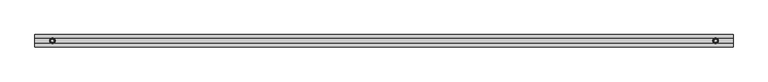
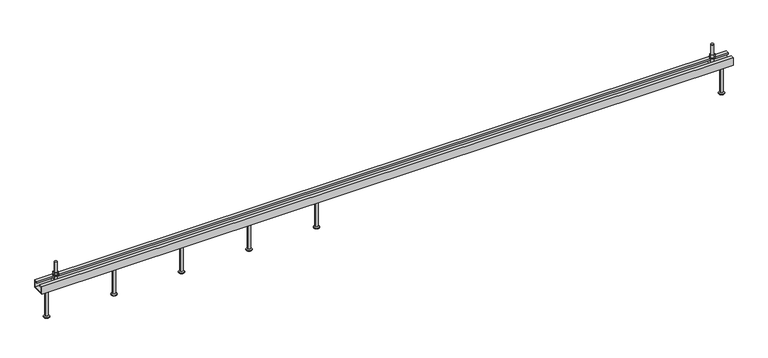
"""IFC4 building model written with IfcOpenShell, lengths in millimetres: fastener geometry, JTA-W JORDAHL® AnchorChannels : JTA-W L=3000 mm."""

from ifc_helpers import new_model, si_unit, point, frame, frame_2d, origin, place, context, project, spatial, polyline, circle_curve, trimmed, segment, composite_curve, outline, extrude, source, transform, mapped, element, save
from ifc_brep_helpers import plane_surface, cylinder_surface, revolved_surface, advanced_brep


def fastener_efa6f67a(model_context):
    return source(origin(), model_context, "Body", "SolidModel", [
        advanced_brep(
        [(1207.0, 0.0, -34.0), (1189.5, 0.0, -34.0), (1224.5, 0.0, -34.0), (1195.2, 0.0, -165.0), (1207.0, 0.0, -165.0), (1218.8, 0.0, -165.0), (1195.2, 0.0, -163.0), (1218.8, 0.0, -163.0), (1201.2, 0.0, -159.5358984), (1212.8, 0.0, -159.5358984), (1201.2, 0.0, -37.0), (1212.8, 0.0, -37.0)],
        [
            (0, 1),
            (1, 2, circle_curve(frame((1207.0, 0.0, -34.0), z_axis=(0.0, 0.0, 1.0), x_axis=(1.0, 0.0, 0.0)), 17.5)),
            (2, 0),
            (2, 1, circle_curve(frame((1207.0, 0.0, -34.0), z_axis=(0.0, 0.0, 1.0), x_axis=(1.0, 0.0, 0.0)), 17.5)),
            (3, 4),
            (4, 5),
            (5, 3, circle_curve(frame((1207.0, 0.0, -165.0), z_axis=(0.0, 0.0, -1.0), x_axis=(1.0, 0.0, 0.0)), 11.8)),
            (3, 5, circle_curve(frame((1207.0, 0.0, -165.0), z_axis=(0.0, 0.0, -1.0), x_axis=(1.0, 0.0, 0.0)), 11.8)),
            (6, 3),
            (5, 7),
            (7, 6, circle_curve(frame((1207.0, 0.0, -163.0), z_axis=(0.0, 0.0, -1.0), x_axis=(1.0, 0.0, 0.0)), 11.8)),
            (6, 7, circle_curve(frame((1207.0, 0.0, -163.0), z_axis=(0.0, 0.0, -1.0), x_axis=(1.0, 0.0, 0.0)), 11.8)),
            (8, 6),
            (7, 9),
            (9, 8, circle_curve(frame((1207.0, 0.0, -159.5358984), z_axis=(0.0, 0.0, -1.0), x_axis=(1.0, 0.0, 0.0)), 5.8)),
            (8, 9, circle_curve(frame((1207.0, 0.0, -159.5358984), z_axis=(0.0, 0.0, -1.0), x_axis=(1.0, 0.0, 0.0)), 5.8)),
            (10, 8),
            (9, 11),
            (11, 10, circle_curve(frame((1207.0, 0.0, -37.0), z_axis=(0.0, 0.0, -1.0), x_axis=(1.0, 0.0, 0.0)), 5.8)),
            (10, 11, circle_curve(frame((1207.0, 0.0, -37.0), z_axis=(0.0, 0.0, -1.0), x_axis=(1.0, 0.0, 0.0)), 5.8)),
            (1, 10),
            (11, 2),
        ],
        [
            plane_surface(frame((1207.0, 0.0, -34.0), z_axis=(0.0, 0.0, 1.0), x_axis=(1.0, 0.0, 0.0))),
            plane_surface(frame((1207.0, 0.0, -165.0), z_axis=(0.0, 0.0, -1.0), x_axis=(1.0, 0.0, 0.0))),
            cylinder_surface(frame((1207.0, 0.0, 2345.3150031), z_axis=(0.0, 0.0, 1.0), x_axis=(1.0, 0.0, 0.0)), 11.8),
            revolved_surface(polyline([(1218.8, 0.0, -163.0), (1212.8, 0.0, -159.5358984)]), (1207.0, 0.0, 2345.3150031), (0.0, 0.0, 1.0)),
            cylinder_surface(frame((1207.0, 0.0, 2345.3150031), z_axis=(0.0, 0.0, 1.0), x_axis=(1.0, 0.0, 0.0)), 5.8),
            revolved_surface(polyline([(1212.8, 0.0, -37.0), (1224.5, 0.0, -34.0)]), (1207.0, 0.0, 2345.3150031), (0.0, 0.0, 1.0)),
        ],
        [
            (0, [[1, 2, 3]]),
            (0, [[-3, 4, -1]]),
            (1, [[5, 6, 7]]),
            (1, [[-6, -5, 8]]),
            (2, [[9, -7, 10, 11]]),
            (2, [[-10, -8, -9, 12]]),
            (3, [[13, -11, 14, 15]]),
            (3, [[-14, -12, -13, 16]]),
            (4, [[17, -15, 18, 19]]),
            (4, [[-18, -16, -17, 20]]),
            (5, [[21, -19, 22, -2]]),
            (5, [[-22, -20, -21, -4]]),
        ],
    ),
        advanced_brep(
        [(914.0, 0.0, -34.0), (896.5, 0.0, -34.0), (931.5, 0.0, -34.0), (902.2, 0.0, -165.0), (914.0, 0.0, -165.0), (925.8, 0.0, -165.0), (902.2, 0.0, -163.0), (925.8, 0.0, -163.0), (908.2, 0.0, -159.5358984), (919.8, 0.0, -159.5358984), (908.2, 0.0, -37.0), (919.8, 0.0, -37.0)],
        [
            (0, 1),
            (1, 2, circle_curve(frame((914.0, 0.0, -34.0), z_axis=(0.0, 0.0, 1.0), x_axis=(1.0, 0.0, 0.0)), 17.5)),
            (2, 0),
            (2, 1, circle_curve(frame((914.0, 0.0, -34.0), z_axis=(0.0, 0.0, 1.0), x_axis=(1.0, 0.0, 0.0)), 17.5)),
            (3, 4),
            (4, 5),
            (5, 3, circle_curve(frame((914.0, 0.0, -165.0), z_axis=(0.0, 0.0, -1.0), x_axis=(1.0, 0.0, 0.0)), 11.8)),
            (3, 5, circle_curve(frame((914.0, 0.0, -165.0), z_axis=(0.0, 0.0, -1.0), x_axis=(1.0, 0.0, 0.0)), 11.8)),
            (6, 3),
            (5, 7),
            (7, 6, circle_curve(frame((914.0, 0.0, -163.0), z_axis=(0.0, 0.0, -1.0), x_axis=(1.0, 0.0, 0.0)), 11.8)),
            (6, 7, circle_curve(frame((914.0, 0.0, -163.0), z_axis=(0.0, 0.0, -1.0), x_axis=(1.0, 0.0, 0.0)), 11.8)),
            (8, 6),
            (7, 9),
            (9, 8, circle_curve(frame((914.0, 0.0, -159.5358984), z_axis=(0.0, 0.0, -1.0), x_axis=(1.0, 0.0, 0.0)), 5.8)),
            (8, 9, circle_curve(frame((914.0, 0.0, -159.5358984), z_axis=(0.0, 0.0, -1.0), x_axis=(1.0, 0.0, 0.0)), 5.8)),
            (10, 8),
            (9, 11),
            (11, 10, circle_curve(frame((914.0, 0.0, -37.0), z_axis=(0.0, 0.0, -1.0), x_axis=(1.0, 0.0, 0.0)), 5.8)),
            (10, 11, circle_curve(frame((914.0, 0.0, -37.0), z_axis=(0.0, 0.0, -1.0), x_axis=(1.0, 0.0, 0.0)), 5.8)),
            (1, 10),
            (11, 2),
        ],
        [
            plane_surface(frame((914.0, 0.0, -34.0), z_axis=(0.0, 0.0, 1.0), x_axis=(1.0, 0.0, 0.0))),
            plane_surface(frame((914.0, 0.0, -165.0), z_axis=(0.0, 0.0, -1.0), x_axis=(1.0, 0.0, 0.0))),
            cylinder_surface(frame((914.0, 0.0, 2345.3150031), z_axis=(0.0, 0.0, 1.0), x_axis=(1.0, 0.0, 0.0)), 11.8),
            revolved_surface(polyline([(925.8, 0.0, -163.0), (919.8, 0.0, -159.5358984)]), (914.0, 0.0, 2345.3150031), (0.0, 0.0, 1.0)),
            cylinder_surface(frame((914.0, 0.0, 2345.3150031), z_axis=(0.0, 0.0, 1.0), x_axis=(1.0, 0.0, 0.0)), 5.8),
            revolved_surface(polyline([(919.8, 0.0, -37.0), (931.5, 0.0, -34.0)]), (914.0, 0.0, 2345.3150031), (0.0, 0.0, 1.0)),
        ],
        [
            (0, [[1, 2, 3]]),
            (0, [[-3, 4, -1]]),
            (1, [[5, 6, 7]]),
            (1, [[-6, -5, 8]]),
            (2, [[9, -7, 10, 11]]),
            (2, [[-10, -8, -9, 12]]),
            (3, [[13, -11, 14, 15]]),
            (3, [[-14, -12, -13, 16]]),
            (4, [[17, -15, 18, 19]]),
            (4, [[-18, -16, -17, 20]]),
            (5, [[21, -19, 22, -2]]),
            (5, [[-22, -20, -21, -4]]),
        ],
    ),
        advanced_brep(
        [(621.0, 0.0, -34.0), (603.5, 0.0, -34.0), (638.5, 0.0, -34.0), (609.2, 0.0, -165.0), (621.0, 0.0, -165.0), (632.8, 0.0, -165.0), (609.2, 0.0, -163.0), (632.8, 0.0, -163.0), (615.2, 0.0, -159.5358984), (626.8, 0.0, -159.5358984), (615.2, 0.0, -37.0), (626.8, 0.0, -37.0)],
        [
            (0, 1),
            (1, 2, circle_curve(frame((621.0, 0.0, -34.0), z_axis=(0.0, 0.0, 1.0), x_axis=(1.0, 0.0, 0.0)), 17.5)),
            (2, 0),
            (2, 1, circle_curve(frame((621.0, 0.0, -34.0), z_axis=(0.0, 0.0, 1.0), x_axis=(1.0, 0.0, 0.0)), 17.5)),
            (3, 4),
            (4, 5),
            (5, 3, circle_curve(frame((621.0, 0.0, -165.0), z_axis=(0.0, 0.0, -1.0), x_axis=(1.0, 0.0, 0.0)), 11.8)),
            (3, 5, circle_curve(frame((621.0, 0.0, -165.0), z_axis=(0.0, 0.0, -1.0), x_axis=(1.0, 0.0, 0.0)), 11.8)),
            (6, 3),
            (5, 7),
            (7, 6, circle_curve(frame((621.0, 0.0, -163.0), z_axis=(0.0, 0.0, -1.0), x_axis=(1.0, 0.0, 0.0)), 11.8)),
            (6, 7, circle_curve(frame((621.0, 0.0, -163.0), z_axis=(0.0, 0.0, -1.0), x_axis=(1.0, 0.0, 0.0)), 11.8)),
            (8, 6),
            (7, 9),
            (9, 8, circle_curve(frame((621.0, 0.0, -159.5358984), z_axis=(0.0, 0.0, -1.0), x_axis=(1.0, 0.0, 0.0)), 5.8)),
            (8, 9, circle_curve(frame((621.0, 0.0, -159.5358984), z_axis=(0.0, 0.0, -1.0), x_axis=(1.0, 0.0, 0.0)), 5.8)),
            (10, 8),
            (9, 11),
            (11, 10, circle_curve(frame((621.0, 0.0, -37.0), z_axis=(0.0, 0.0, -1.0), x_axis=(1.0, 0.0, 0.0)), 5.8)),
            (10, 11, circle_curve(frame((621.0, 0.0, -37.0), z_axis=(0.0, 0.0, -1.0), x_axis=(1.0, 0.0, 0.0)), 5.8)),
            (1, 10),
            (11, 2),
        ],
        [
            plane_surface(frame((621.0, 0.0, -34.0), z_axis=(0.0, 0.0, 1.0), x_axis=(1.0, 0.0, 0.0))),
            plane_surface(frame((621.0, 0.0, -165.0), z_axis=(0.0, 0.0, -1.0), x_axis=(1.0, 0.0, 0.0))),
            cylinder_surface(frame((621.0, 0.0, 2345.3150031), z_axis=(0.0, 0.0, 1.0), x_axis=(1.0, 0.0, 0.0)), 11.8),
            revolved_surface(polyline([(632.8, 0.0, -163.0), (626.8, 0.0, -159.5358984)]), (621.0, 0.0, 2345.3150031), (0.0, 0.0, 1.0)),
            cylinder_surface(frame((621.0, 0.0, 2345.3150031), z_axis=(0.0, 0.0, 1.0), x_axis=(1.0, 0.0, 0.0)), 5.8),
            revolved_surface(polyline([(626.8, 0.0, -37.0), (638.5, 0.0, -34.0)]), (621.0, 0.0, 2345.3150031), (0.0, 0.0, 1.0)),
        ],
        [
            (0, [[1, 2, 3]]),
            (0, [[-3, 4, -1]]),
            (1, [[5, 6, 7]]),
            (1, [[-6, -5, 8]]),
            (2, [[9, -7, 10, 11]]),
            (2, [[-10, -8, -9, 12]]),
            (3, [[13, -11, 14, 15]]),
            (3, [[-14, -12, -13, 16]]),
            (4, [[17, -15, 18, 19]]),
            (4, [[-18, -16, -17, 20]]),
            (5, [[21, -19, 22, -2]]),
            (5, [[-22, -20, -21, -4]]),
        ],
    ),
        advanced_brep(
        [(328.0, 0.0, -34.0), (310.5, 0.0, -34.0), (345.5, 0.0, -34.0), (316.2, 0.0, -165.0), (328.0, 0.0, -165.0), (339.8, 0.0, -165.0), (316.2, 0.0, -163.0), (339.8, 0.0, -163.0), (322.2, 0.0, -159.5358984), (333.8, 0.0, -159.5358984), (322.2, 0.0, -37.0), (333.8, 0.0, -37.0)],
        [
            (0, 1),
            (1, 2, circle_curve(frame((328.0, 0.0, -34.0), z_axis=(0.0, 0.0, 1.0), x_axis=(1.0, 0.0, 0.0)), 17.5)),
            (2, 0),
            (2, 1, circle_curve(frame((328.0, 0.0, -34.0), z_axis=(0.0, 0.0, 1.0), x_axis=(1.0, 0.0, 0.0)), 17.5)),
            (3, 4),
            (4, 5),
            (5, 3, circle_curve(frame((328.0, 0.0, -165.0), z_axis=(0.0, 0.0, -1.0), x_axis=(1.0, 0.0, 0.0)), 11.8)),
            (3, 5, circle_curve(frame((328.0, 0.0, -165.0), z_axis=(0.0, 0.0, -1.0), x_axis=(1.0, 0.0, 0.0)), 11.8)),
            (6, 3),
            (5, 7),
            (7, 6, circle_curve(frame((328.0, 0.0, -163.0), z_axis=(0.0, 0.0, -1.0), x_axis=(1.0, 0.0, 0.0)), 11.8)),
            (6, 7, circle_curve(frame((328.0, 0.0, -163.0), z_axis=(0.0, 0.0, -1.0), x_axis=(1.0, 0.0, 0.0)), 11.8)),
            (8, 6),
            (7, 9),
            (9, 8, circle_curve(frame((328.0, 0.0, -159.5358984), z_axis=(0.0, 0.0, -1.0), x_axis=(1.0, 0.0, 0.0)), 5.8)),
            (8, 9, circle_curve(frame((328.0, 0.0, -159.5358984), z_axis=(0.0, 0.0, -1.0), x_axis=(1.0, 0.0, 0.0)), 5.8)),
            (10, 8),
            (9, 11),
            (11, 10, circle_curve(frame((328.0, 0.0, -37.0), z_axis=(0.0, 0.0, -1.0), x_axis=(1.0, 0.0, 0.0)), 5.8)),
            (10, 11, circle_curve(frame((328.0, 0.0, -37.0), z_axis=(0.0, 0.0, -1.0), x_axis=(1.0, 0.0, 0.0)), 5.8)),
            (1, 10),
            (11, 2),
        ],
        [
            plane_surface(frame((328.0, 0.0, -34.0), z_axis=(0.0, 0.0, 1.0), x_axis=(1.0, 0.0, 0.0))),
            plane_surface(frame((328.0, 0.0, -165.0), z_axis=(0.0, 0.0, -1.0), x_axis=(1.0, 0.0, 0.0))),
            cylinder_surface(frame((328.0, 0.0, 2345.3150031), z_axis=(0.0, 0.0, 1.0), x_axis=(1.0, 0.0, 0.0)), 11.8),
            revolved_surface(polyline([(339.8, 0.0, -163.0), (333.8, 0.0, -159.5358984)]), (328.0, 0.0, 2345.3150031), (0.0, 0.0, 1.0)),
            cylinder_surface(frame((328.0, 0.0, 2345.3150031), z_axis=(0.0, 0.0, 1.0), x_axis=(1.0, 0.0, 0.0)), 5.8),
            revolved_surface(polyline([(333.8, 0.0, -37.0), (345.5, 0.0, -34.0)]), (328.0, 0.0, 2345.3150031), (0.0, 0.0, 1.0)),
        ],
        [
            (0, [[1, 2, 3]]),
            (0, [[-3, 4, -1]]),
            (1, [[5, 6, 7]]),
            (1, [[-6, -5, 8]]),
            (2, [[9, -7, 10, 11]]),
            (2, [[-10, -8, -9, 12]]),
            (3, [[13, -11, 14, 15]]),
            (3, [[-14, -12, -13, 16]]),
            (4, [[17, -15, 18, 19]]),
            (4, [[-18, -16, -17, 20]]),
            (5, [[21, -19, 22, -2]]),
            (5, [[-22, -20, -21, -4]]),
        ],
    ),
        extrude(outline(polyline([(2925.0, -10.3923048), (2916.0, -5.1961524), (2916.0, 5.1961524), (2925.0, 10.3923048), (2934.0, 5.1961524), (2934.0, -5.1961524), (2925.0, -10.3923048)]), holes=[composite_curve([segment(trimmed(circle_curve(frame_2d((2925.0, 0.0)), 6.0), [point((2919.0, 0.0))], [point((2931.0, 0.0))], True, "CARTESIAN"), True, "CONTINUOUS"), segment(trimmed(circle_curve(frame_2d((2925.0, 0.0)), 6.0), [point((2931.0, 0.0))], [point((2919.0, 0.0))], True, "CARTESIAN"), True, "CONTINUOUS")], self_intersect=False)]), frame((0.0, 0.0, 17.5), z_axis=(0.0, 0.0, 1.0), x_axis=(1.0, 0.0, 0.0)), (0.0, 0.0, 1.0), 10.8),
        extrude(outline(composite_curve([segment(trimmed(circle_curve(frame_2d((2925.0, 0.0)), 12.0), [point((2913.0, 0.0))], [point((2937.0, 0.0))], False, "CARTESIAN"), True, "CONTINUOUS"), segment(trimmed(circle_curve(frame_2d((2925.0, 0.0)), 12.0), [point((2937.0, 0.0))], [point((2913.0, 0.0))], False, "CARTESIAN"), True, "CONTINUOUS")], self_intersect=False), holes=[composite_curve([segment(trimmed(circle_curve(frame_2d((2925.0, 0.0)), 6.5), [point((2918.5, 0.0))], [point((2931.5, 0.0))], True, "CARTESIAN"), True, "CONTINUOUS"), segment(trimmed(circle_curve(frame_2d((2925.0, 0.0)), 6.5), [point((2931.5, 0.0))], [point((2918.5, 0.0))], True, "CARTESIAN"), True, "CONTINUOUS")], self_intersect=False)]), frame((0.0, 0.0, 15.0), z_axis=(0.0, 0.0, 1.0), x_axis=(1.0, 0.0, 0.0)), (0.0, 0.0, 1.0), 2.5),
        extrude(outline(polyline([(75.0, -10.3923048), (66.0, -5.1961524), (66.0, 5.1961524), (75.0, 10.3923048), (84.0, 5.1961524), (84.0, -5.1961524), (75.0, -10.3923048)]), holes=[composite_curve([segment(trimmed(circle_curve(frame_2d((75.0, 0.0)), 6.0), [point((69.0, 0.0))], [point((81.0, 0.0))], True, "CARTESIAN"), True, "CONTINUOUS"), segment(trimmed(circle_curve(frame_2d((75.0, 0.0)), 6.0), [point((81.0, 0.0))], [point((69.0, 0.0))], True, "CARTESIAN"), True, "CONTINUOUS")], self_intersect=False)]), frame((0.0, 0.0, 17.5), z_axis=(0.0, 0.0, 1.0), x_axis=(1.0, 0.0, 0.0)), (0.0, 0.0, 1.0), 10.8),
        extrude(outline(composite_curve([segment(trimmed(circle_curve(frame_2d((75.0, 0.0)), 12.0), [point((63.0, 0.0))], [point((87.0, 0.0))], False, "CARTESIAN"), True, "CONTINUOUS"), segment(trimmed(circle_curve(frame_2d((75.0, 0.0)), 12.0), [point((87.0, 0.0))], [point((63.0, 0.0))], False, "CARTESIAN"), True, "CONTINUOUS")], self_intersect=False), holes=[composite_curve([segment(trimmed(circle_curve(frame_2d((75.0, 0.0)), 6.5), [point((68.5, 0.0))], [point((81.5, 0.0))], True, "CARTESIAN"), True, "CONTINUOUS"), segment(trimmed(circle_curve(frame_2d((75.0, 0.0)), 6.5), [point((81.5, 0.0))], [point((68.5, 0.0))], True, "CARTESIAN"), True, "CONTINUOUS")], self_intersect=False)]), frame((0.0, 0.0, 15.0), z_axis=(0.0, 0.0, 1.0), x_axis=(1.0, 0.0, 0.0)), (0.0, 0.0, 1.0), 2.5),
        advanced_brep(
        [(2933.5, -20.7, -6.5), (2933.5, -20.7, -16.5), (2933.5, 20.7, -16.5), (2933.5, 20.7, -6.5), (2916.5, -20.7, -6.5), (2916.5, 20.7, -6.5), (2916.5, 20.7, -16.5), (2916.5, -20.7, -16.5), (2931.0, 0.0, -6.5), (2919.0, 0.0, -6.5), (2919.0, 0.0, 73.5), (2931.0, 0.0, 73.5)],
        [
            (0, 1),
            (1, 2),
            (2, 3),
            (3, 0),
            (4, 5),
            (5, 6),
            (6, 7),
            (7, 4),
            (3, 5),
            (4, 0),
            (8, 9, circle_curve(frame((2925.0, 0.0, -6.5), z_axis=(0.0, 0.0, -1.0), x_axis=(1.0, 0.0, 0.0)), 6.0)),
            (9, 8, circle_curve(frame((2925.0, 0.0, -6.5), z_axis=(0.0, 0.0, -1.0), x_axis=(1.0, 0.0, 0.0)), 6.0)),
            (2, 6),
            (1, 7),
            (10, 11, circle_curve(frame((2925.0, 0.0, 73.5), z_axis=(0.0, 0.0, 1.0), x_axis=(1.0, 0.0, 0.0)), 6.0)),
            (11, 10, circle_curve(frame((2925.0, 0.0, 73.5), z_axis=(0.0, 0.0, 1.0), x_axis=(1.0, 0.0, 0.0)), 6.0)),
            (11, 8),
            (9, 10),
        ],
        [
            plane_surface(frame((2933.5, 20.7, -6.5), z_axis=(1.0, 0.0, 0.0), x_axis=(0.0, 1.0, 0.0))),
            plane_surface(frame((2916.5, 20.7, -6.5), z_axis=(-1.0, 0.0, 0.0), x_axis=(0.0, -1.0, 0.0))),
            plane_surface(frame((2933.5, -20.7, -6.5), z_axis=(0.0, 0.0, 1.0), x_axis=(-1.0, 0.0, 0.0))),
            plane_surface(frame((2933.5, 20.7, -6.5), z_axis=(0.0, 1.0, 0.0), x_axis=(-1.0, 0.0, 0.0))),
            plane_surface(frame((2933.5, 20.7, -16.5), z_axis=(0.0, 0.0, -1.0), x_axis=(-1.0, 0.0, 0.0))),
            plane_surface(frame((2933.5, -20.7, -16.5), z_axis=(0.0, -1.0, 0.0), x_axis=(-1.0, 0.0, 0.0))),
            plane_surface(frame((2931.0, 0.0, 73.5), z_axis=(0.0, 0.0, 1.0), x_axis=(0.0, -1.0, 0.0))),
            cylinder_surface(frame((2925.0, 0.0, -6.5), z_axis=(0.0, 0.0, 1.0), x_axis=(1.0, 0.0, 0.0)), 6.0),
        ],
        [
            (0, [[1, 2, 3, 4]]),
            (1, [[5, 6, 7, 8]]),
            (2, [[9, -5, 10, -4], [11, 12]]),
            (3, [[13, -6, -9, -3]]),
            (4, [[14, -7, -13, -2]]),
            (5, [[-10, -8, -14, -1]]),
            (6, [[15, 16]]),
            (7, [[17, -12, 18, -16]]),
            (7, [[-18, -11, -17, -15]]),
        ],
    ),
        advanced_brep(
        [(83.5, -20.7, -6.5), (83.5, -20.7, -16.5), (83.5, 20.7, -16.5), (83.5, 20.7, -6.5), (66.5, -20.7, -6.5), (66.5, 20.7, -6.5), (66.5, 20.7, -16.5), (66.5, -20.7, -16.5), (81.0, 0.0, -6.5), (69.0, 0.0, -6.5), (69.0, 0.0, 73.5), (81.0, 0.0, 73.5)],
        [
            (0, 1),
            (1, 2),
            (2, 3),
            (3, 0),
            (4, 5),
            (5, 6),
            (6, 7),
            (7, 4),
            (3, 5),
            (4, 0),
            (8, 9, circle_curve(frame((75.0, 0.0, -6.5), z_axis=(0.0, 0.0, -1.0), x_axis=(1.0, 0.0, 0.0)), 6.0)),
            (9, 8, circle_curve(frame((75.0, 0.0, -6.5), z_axis=(0.0, 0.0, -1.0), x_axis=(1.0, 0.0, 0.0)), 6.0)),
            (2, 6),
            (1, 7),
            (10, 11, circle_curve(frame((75.0, 0.0, 73.5), z_axis=(0.0, 0.0, 1.0), x_axis=(1.0, 0.0, 0.0)), 6.0)),
            (11, 10, circle_curve(frame((75.0, 0.0, 73.5), z_axis=(0.0, 0.0, 1.0), x_axis=(1.0, 0.0, 0.0)), 6.0)),
            (11, 8),
            (9, 10),
        ],
        [
            plane_surface(frame((83.5, 20.7, -6.5), z_axis=(1.0, 0.0, 0.0), x_axis=(0.0, 1.0, 0.0))),
            plane_surface(frame((66.5, 20.7, -6.5), z_axis=(-1.0, 0.0, 0.0), x_axis=(0.0, -1.0, 0.0))),
            plane_surface(frame((83.5, -20.7, -6.5), z_axis=(0.0, 0.0, 1.0), x_axis=(-1.0, 0.0, 0.0))),
            plane_surface(frame((83.5, 20.7, -6.5), z_axis=(0.0, 1.0, 0.0), x_axis=(-1.0, 0.0, 0.0))),
            plane_surface(frame((83.5, 20.7, -16.5), z_axis=(0.0, 0.0, -1.0), x_axis=(-1.0, 0.0, 0.0))),
            plane_surface(frame((83.5, -20.7, -16.5), z_axis=(0.0, -1.0, 0.0), x_axis=(-1.0, 0.0, 0.0))),
            plane_surface(frame((81.0, 0.0, 73.5), z_axis=(0.0, 0.0, 1.0), x_axis=(0.0, -1.0, 0.0))),
            cylinder_surface(frame((75.0, 0.0, -6.5), z_axis=(0.0, 0.0, 1.0), x_axis=(1.0, 0.0, 0.0)), 6.0),
        ],
        [
            (0, [[1, 2, 3, 4]]),
            (1, [[5, 6, 7, 8]]),
            (2, [[9, -5, 10, -4], [11, 12]]),
            (3, [[13, -6, -9, -3]]),
            (4, [[14, -7, -13, -2]]),
            (5, [[-10, -8, -14, -1]]),
            (6, [[15, 16]]),
            (7, [[17, -12, 18, -16]]),
            (7, [[-18, -11, -17, -15]]),
        ],
    ),
        advanced_brep(
        [(2965.0, 0.0, -34.0), (2947.5, 0.0, -34.0), (2982.5, 0.0, -34.0), (2953.2, 0.0, -165.0), (2965.0, 0.0, -165.0), (2976.8, 0.0, -165.0), (2953.2, 0.0, -163.0), (2976.8, 0.0, -163.0), (2959.2, 0.0, -159.5358984), (2970.8, 0.0, -159.5358984), (2959.2, 0.0, -37.0), (2970.8, 0.0, -37.0)],
        [
            (0, 1),
            (1, 2, circle_curve(frame((2965.0, 0.0, -34.0), z_axis=(0.0, 0.0, 1.0), x_axis=(1.0, 0.0, 0.0)), 17.5)),
            (2, 0),
            (2, 1, circle_curve(frame((2965.0, 0.0, -34.0), z_axis=(0.0, 0.0, 1.0), x_axis=(1.0, 0.0, 0.0)), 17.5)),
            (3, 4),
            (4, 5),
            (5, 3, circle_curve(frame((2965.0, 0.0, -165.0), z_axis=(0.0, 0.0, -1.0), x_axis=(1.0, 0.0, 0.0)), 11.8)),
            (3, 5, circle_curve(frame((2965.0, 0.0, -165.0), z_axis=(0.0, 0.0, -1.0), x_axis=(1.0, 0.0, 0.0)), 11.8)),
            (6, 3),
            (5, 7),
            (7, 6, circle_curve(frame((2965.0, 0.0, -163.0), z_axis=(0.0, 0.0, -1.0), x_axis=(1.0, 0.0, 0.0)), 11.8)),
            (6, 7, circle_curve(frame((2965.0, 0.0, -163.0), z_axis=(0.0, 0.0, -1.0), x_axis=(1.0, 0.0, 0.0)), 11.8)),
            (8, 6),
            (7, 9),
            (9, 8, circle_curve(frame((2965.0, 0.0, -159.5358984), z_axis=(0.0, 0.0, -1.0), x_axis=(1.0, 0.0, 0.0)), 5.8)),
            (8, 9, circle_curve(frame((2965.0, 0.0, -159.5358984), z_axis=(0.0, 0.0, -1.0), x_axis=(1.0, 0.0, 0.0)), 5.8)),
            (10, 8),
            (9, 11),
            (11, 10, circle_curve(frame((2965.0, 0.0, -37.0), z_axis=(0.0, 0.0, -1.0), x_axis=(1.0, 0.0, 0.0)), 5.8)),
            (10, 11, circle_curve(frame((2965.0, 0.0, -37.0), z_axis=(0.0, 0.0, -1.0), x_axis=(1.0, 0.0, 0.0)), 5.8)),
            (1, 10),
            (11, 2),
        ],
        [
            plane_surface(frame((2965.0, 0.0, -34.0), z_axis=(0.0, 0.0, 1.0), x_axis=(1.0, 0.0, 0.0))),
            plane_surface(frame((2965.0, 0.0, -165.0), z_axis=(0.0, 0.0, -1.0), x_axis=(1.0, 0.0, 0.0))),
            cylinder_surface(frame((2965.0, 0.0, 2345.3150031), z_axis=(0.0, 0.0, 1.0), x_axis=(1.0, 0.0, 0.0)), 11.8),
            revolved_surface(polyline([(2976.8, 0.0, -163.0), (2970.8, 0.0, -159.5358984)]), (2965.0, 0.0, 2345.3150031), (0.0, 0.0, 1.0)),
            cylinder_surface(frame((2965.0, 0.0, 2345.3150031), z_axis=(0.0, 0.0, 1.0), x_axis=(1.0, 0.0, 0.0)), 5.8),
            revolved_surface(polyline([(2970.8, 0.0, -37.0), (2982.5, 0.0, -34.0)]), (2965.0, 0.0, 2345.3150031), (0.0, 0.0, 1.0)),
        ],
        [
            (0, [[1, 2, 3]]),
            (0, [[-3, 4, -1]]),
            (1, [[5, 6, 7]]),
            (1, [[-6, -5, 8]]),
            (2, [[9, -7, 10, 11]]),
            (2, [[-10, -8, -9, 12]]),
            (3, [[13, -11, 14, 15]]),
            (3, [[-14, -12, -13, 16]]),
            (4, [[17, -15, 18, 19]]),
            (4, [[-18, -16, -17, 20]]),
            (5, [[21, -19, 22, -2]]),
            (5, [[-22, -20, -21, -4]]),
        ],
    ),
        advanced_brep(
        [(35.0, 0.0, -34.0), (17.5, 0.0, -34.0), (52.5, 0.0, -34.0), (23.2, 0.0, -165.0), (35.0, 0.0, -165.0), (46.8, 0.0, -165.0), (23.2, 0.0, -163.0), (46.8, 0.0, -163.0), (29.2, 0.0, -159.5358984), (40.8, 0.0, -159.5358984), (29.2, 0.0, -37.0), (40.8, 0.0, -37.0)],
        [
            (0, 1),
            (1, 2, circle_curve(frame((35.0, 0.0, -34.0), z_axis=(0.0, 0.0, 1.0), x_axis=(1.0, 0.0, 0.0)), 17.5)),
            (2, 0),
            (2, 1, circle_curve(frame((35.0, 0.0, -34.0), z_axis=(0.0, 0.0, 1.0), x_axis=(1.0, 0.0, 0.0)), 17.5)),
            (3, 4),
            (4, 5),
            (5, 3, circle_curve(frame((35.0, 0.0, -165.0), z_axis=(0.0, 0.0, -1.0), x_axis=(1.0, 0.0, 0.0)), 11.8)),
            (3, 5, circle_curve(frame((35.0, 0.0, -165.0), z_axis=(0.0, 0.0, -1.0), x_axis=(1.0, 0.0, 0.0)), 11.8)),
            (6, 3),
            (5, 7),
            (7, 6, circle_curve(frame((35.0, 0.0, -163.0), z_axis=(0.0, 0.0, -1.0), x_axis=(1.0, 0.0, 0.0)), 11.8)),
            (6, 7, circle_curve(frame((35.0, 0.0, -163.0), z_axis=(0.0, 0.0, -1.0), x_axis=(1.0, 0.0, 0.0)), 11.8)),
            (8, 6),
            (7, 9),
            (9, 8, circle_curve(frame((35.0, 0.0, -159.5358984), z_axis=(0.0, 0.0, -1.0), x_axis=(1.0, 0.0, 0.0)), 5.8)),
            (8, 9, circle_curve(frame((35.0, 0.0, -159.5358984), z_axis=(0.0, 0.0, -1.0), x_axis=(1.0, 0.0, 0.0)), 5.8)),
            (10, 8),
            (9, 11),
            (11, 10, circle_curve(frame((35.0, 0.0, -37.0), z_axis=(0.0, 0.0, -1.0), x_axis=(1.0, 0.0, 0.0)), 5.8)),
            (10, 11, circle_curve(frame((35.0, 0.0, -37.0), z_axis=(0.0, 0.0, -1.0), x_axis=(1.0, 0.0, 0.0)), 5.8)),
            (1, 10),
            (11, 2),
        ],
        [
            plane_surface(frame((35.0, 0.0, -34.0), z_axis=(0.0, 0.0, 1.0), x_axis=(1.0, 0.0, 0.0))),
            plane_surface(frame((35.0, 0.0, -165.0), z_axis=(0.0, 0.0, -1.0), x_axis=(1.0, 0.0, 0.0))),
            cylinder_surface(frame((35.0, 0.0, 2345.3150031), z_axis=(0.0, 0.0, 1.0), x_axis=(1.0, 0.0, 0.0)), 11.8),
            revolved_surface(polyline([(46.8, 0.0, -163.0), (40.8, 0.0, -159.5358984)]), (35.0, 0.0, 2345.3150031), (0.0, 0.0, 1.0)),
            cylinder_surface(frame((35.0, 0.0, 2345.3150031), z_axis=(0.0, 0.0, 1.0), x_axis=(1.0, 0.0, 0.0)), 5.8),
            revolved_surface(polyline([(40.8, 0.0, -37.0), (52.5, 0.0, -34.0)]), (35.0, 0.0, 2345.3150031), (0.0, 0.0, 1.0)),
        ],
        [
            (0, [[1, 2, 3]]),
            (0, [[-3, 4, -1]]),
            (1, [[5, 6, 7]]),
            (1, [[-6, -5, 8]]),
            (2, [[9, -7, 10, 11]]),
            (2, [[-10, -8, -9, 12]]),
            (3, [[13, -11, 14, 15]]),
            (3, [[-14, -12, -13, 16]]),
            (4, [[17, -15, 18, 19]]),
            (4, [[-18, -16, -17, 20]]),
            (5, [[21, -19, 22, -2]]),
            (5, [[-22, -20, -21, -4]]),
        ],
    ),
        extrude(outline(polyline([(-26.5, 0.0), (-11.25, 0.0), (-11.25, -6.5), (-22.5, -6.5), (-22.5, -30.0), (22.5, -30.0), (22.5, -6.5), (11.25, -6.5), (11.25, 0.0), (26.5, 0.0), (26.5, -34.0), (-26.5, -34.0), (-26.5, 0.0)])), frame((0.0, 0.0, 0.0), z_axis=(1.0, 0.0, 0.0), x_axis=(0.0, 1.0, 0.0)), (0.0, 0.0, 1.0), 3000.0),
    ])


if __name__ == "__main__":
    model = new_model("IFC4")
    model_context = context("Model", 3, world=origin())
    ifc_project = project(units=[si_unit("LENGTHUNIT", "METRE", prefix="MILLI")], contexts=[model_context])
    site = spatial("IfcSite", under=ifc_project)
    building = spatial("IfcBuilding", under=site)
    placement = place(None, origin())
    fastener_shape = fastener_efa6f67a(model_context)
    element("IfcFastener", 1, ObjectType="JTA-W JORDAHL® AnchorChannels : JTA-W L=3000 mm", at=placement, inside=building, context=model_context, shape_type="MappedRepresentation", body=[
        mapped(fastener_shape, transform((0.0, 0.0, 0.0), x_axis=(1.0, 0.0, 0.0), y_axis=(0.0, 1.0, 0.0), z_axis=(0.0, 0.0, 1.0))),
    ])
    save(model, "model.ifc")
